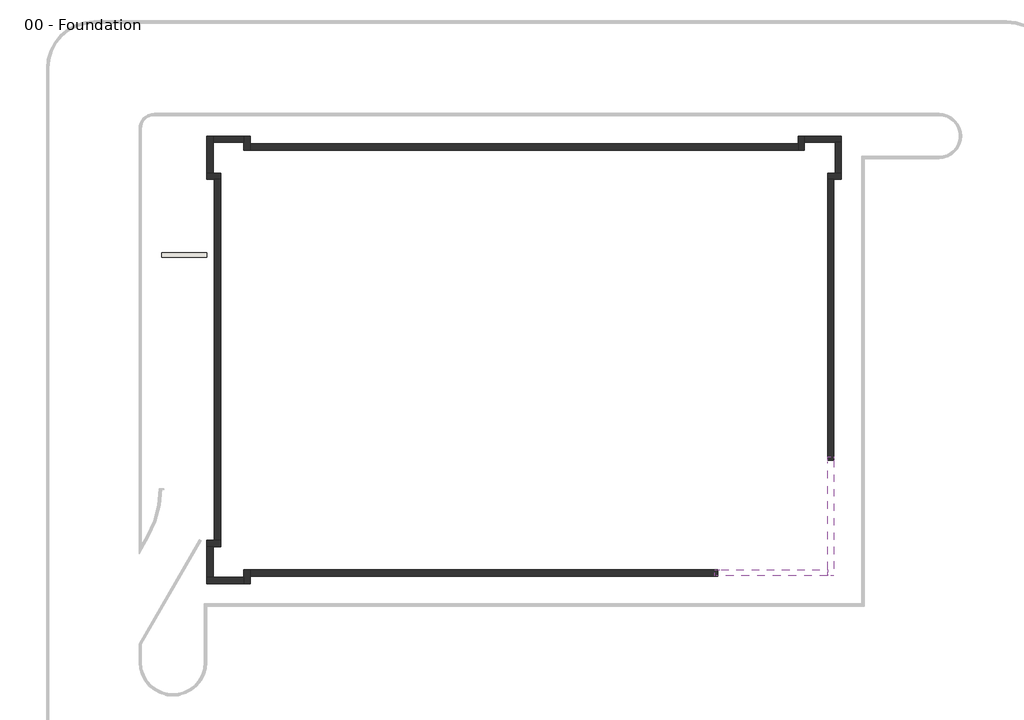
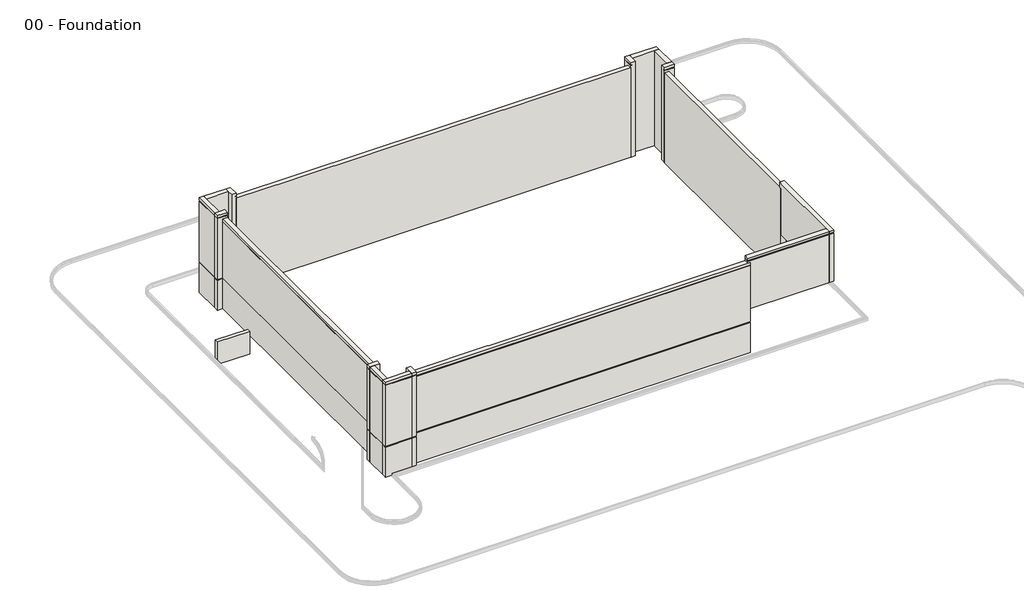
# One storey, part 1 of 2: 19 walls.
"""IFC4 building model written with IfcOpenShell, lengths in millimetres."""

from ifc_helpers import new_model, si_unit, frame, origin, place, context, project, spatial, polyline, outline, extrude, faceted_brep, element, save

model = new_model("IFC4")

# Units and contexts
model_context = context("Model", 3, world=origin())
ifc_project = project(units=[si_unit("LENGTHUNIT", "METRE", prefix="MILLI")], contexts=[model_context])

# Site, building, storey
site = spatial("IfcSite", under=ifc_project)
building = spatial("IfcBuilding", under=site)
storey = spatial("IfcBuildingStorey", under=building, Name="00 - Foundation", Elevation=-1250.0)

# Walls
placement = place(None, origin())
element("IfcWall", 1, ObjectType="Exterior - Render on Brick on Block @ Entry", at=placement, inside=storey, context=model_context, shape_type="Brep", body=[
    faceted_brep([(18351.5272279, -6696.4313057, 3000.0), (18351.5272279, -13977.9313057, 3000.0), (18351.5272279, -14406.9313057, 3000.0), (18351.5272279, -14406.9313057, 7700.0), (18351.5272279, -14331.9313057, 7700.0), (18351.5272279, -14331.9313057, 7775.0), (18351.5272279, -14406.9313057, 7775.0), (18351.5272279, -14406.9313057, 8000.0), (18351.5272279, -13977.9313057, 8000.0), (18351.5272279, -6910.9313057, 8000.0), (18351.5272279, -6481.9313057, 8000.0), (18351.5272279, -6481.9313057, 7775.0), (18351.5272279, -6556.9313057, 7775.0), (18351.5272279, -6556.9313057, 7700.0), (18351.5272279, -6481.9313057, 7700.0), (18351.5272279, -6481.9313057, 7500.0), (18351.5272279, -6696.4313057, 7500.0), (18780.5272279, -14406.9313057, 3000.0), (18780.5272279, -6696.4313057, 3000.0), (18780.5272279, -6696.4313057, 7200.0), (18780.5272279, -6696.4313057, 7275.0), (18780.5272279, -6696.4313057, 7500.0), (18780.5272279, -6481.9313057, 7500.0), (18780.5272279, -6481.9313057, 7700.0), (18780.5272279, -14406.9313057, 7700.0), (18780.5272279, -6481.9313057, 8000.0), (18780.5272279, -14406.9313057, 8000.0), (18780.5272279, -14406.9313057, 7775.0), (18780.5272279, -6481.9313057, 7775.0), (18705.5272279, -6556.9313057, 7700.0), (18705.5272279, -6556.9313057, 7775.0), (18705.5272279, -14331.9313057, 7775.0), (18705.5272279, -14331.9313057, 7700.0)], [[[0, 1, 2, 3, 4, 5, 6, 7, 8, 9, 10, 11, 12, 13, 14, 15, 16]], [[17, 18, 19, 20, 21, 22, 23, 24]], [[25, 26, 27, 28]], [[2, 1, 0, 18, 17]], [[10, 9, 8, 7, 26, 25]], [[29, 30, 31, 32]], [[2, 17, 24, 3]], [[26, 7, 6, 27]], [[31, 30, 12, 11, 28, 27, 6, 5]], [[29, 32, 4, 3, 24, 23, 14, 13]], [[30, 29, 13, 12]], [[32, 31, 5, 4]], [[18, 0, 16, 21, 20, 19]], [[22, 21, 16, 15]], [[10, 25, 28, 11]], [[22, 15, 14, 23]]]),
])
element("IfcWall", 2, ObjectType="Exterior - Render on Brick on Block @ Entry", at=placement, inside=storey, context=model_context, shape_type="Brep", body=[
    faceted_brep([(18351.5272279, -13977.9313057, 3000.0), (11070.0272279, -13977.9313057, 3000.0), (11070.0272279, -13977.9313057, 7500.0), (10855.5272279, -13977.9313057, 7500.0), (10855.5272279, -13977.9313057, 7700.0), (10930.5272279, -13977.9313057, 7700.0), (10930.5272279, -13977.9313057, 7775.0), (10855.5272279, -13977.9313057, 7775.0), (10855.5272279, -13977.9313057, 8000.0), (11284.5272279, -13977.9313057, 8000.0), (18351.5272279, -13977.9313057, 8000.0), (11070.0272279, -14406.9313057, 3000.0), (18351.5272279, -14406.9313057, 3000.0), (18351.5272279, -14406.9313057, 7700.0), (10855.5272279, -14406.9313057, 7700.0), (10855.5272279, -14406.9313057, 7500.0), (11070.0272279, -14406.9313057, 7500.0), (11070.0272279, -14406.9313057, 7275.0), (11070.0272279, -14406.9313057, 7200.0), (18351.5272279, -14406.9313057, 8000.0), (10855.5272279, -14406.9313057, 8000.0), (10855.5272279, -14406.9313057, 7775.0), (18351.5272279, -14406.9313057, 7775.0), (18351.5272279, -14331.9313057, 7700.0), (18351.5272279, -14331.9313057, 7775.0), (10930.5272279, -14331.9313057, 7775.0), (10930.5272279, -14331.9313057, 7700.0)], [[[0, 1, 2, 3, 4, 5, 6, 7, 8, 9, 10]], [[11, 12, 13, 14, 15, 16, 17, 18]], [[19, 20, 21, 22]], [[1, 0, 12, 11]], [[10, 9, 8, 20, 19]], [[23, 24, 25, 26]], [[0, 10, 19, 22, 24, 23, 13, 12]], [[22, 21, 7, 6, 25, 24]], [[14, 13, 23, 26, 5, 4]], [[26, 25, 6, 5]], [[1, 11, 18, 17, 16, 2]], [[3, 2, 16, 15]], [[3, 15, 14, 4]], [[20, 8, 7, 21]]]),
])
element("IfcWall", 3, ObjectType="Exterior - Render on Brick on Block", at=placement, inside=storey, context=model_context, shape_type="Brep", body=[
    faceted_brep([(11070.0272279, -13977.9313057, -1250.0), (-20031.4727721, -13977.9313057, -1250.0), (-20031.4727721, -13977.9313057, 7500.0), (-12988.7227721, -13977.9313057, 7500.0), (-12850.2227721, -13977.9313057, 7500.0), (10855.5272279, -13977.9313057, 7500.0), (11070.0272279, -13977.9313057, 7500.0), (11070.0272279, -13977.9313057, 3000.0), (11070.0272279, -14406.9313057, 7500.0), (-20031.4727721, -14406.9313057, 7500.0), (-20031.4727721, -14406.9313057, 7275.0), (11070.0272279, -14406.9313057, 7275.0), (-20031.4727721, -14406.9313057, -1250.0), (11070.0272279, -14406.9313057, -1250.0), (11070.0272279, -14406.9313057, 1675.0), (-20031.4727721, -14406.9313057, 1675.0), (-20031.4727721, -14406.9313057, 1750.0), (11070.0272279, -14406.9313057, 1750.0), (11070.0272279, -14406.9313057, 7200.0), (-20031.4727721, -14406.9313057, 7200.0), (11070.0272279, -14331.9313057, 7275.0), (11070.0272279, -14331.9313057, 7200.0), (11070.0272279, -14331.9313057, 1750.0), (11070.0272279, -14331.9313057, 1675.0), (11070.0272279, -14381.9313057, -1250.0), (-20031.4727721, -14381.9313057, -1250.0), (-20031.4727721, -14331.9313057, 1750.0), (-20031.4727721, -14331.9313057, 1675.0), (-20031.4727721, -14331.9313057, 7275.0), (-20031.4727721, -14331.9313057, 7200.0)], [[[0, 1, 2, 3, 4, 5, 6, 7]], [[8, 9, 10, 11]], [[12, 13, 14, 15]], [[16, 17, 18, 19]], [[6, 5, 4, 3, 2, 9, 8]], [[0, 7, 6, 8, 11, 20, 21, 18, 17, 22, 23, 14, 13, 24]], [[1, 0, 24, 25]], [[24, 13, 12, 25]], [[17, 16, 26, 22]], [[15, 14, 23, 27]], [[23, 22, 26, 27]], [[28, 20, 11, 10]], [[21, 29, 19, 18]], [[20, 28, 29, 21]], [[2, 1, 25, 12, 15, 27, 26, 16, 19, 29, 28, 10, 9]]]),
])
element("IfcWall", 4, ObjectType="Exterior - Render on Brick on Block", at=placement, inside=storey, context=model_context, shape_type="Brep", body=[
    faceted_brep([(-20460.4727721, -13977.9313057, -1250.0), (-20460.4727721, -14477.7313057, -1250.0), (-20460.4727721, -14906.7313057, -1250.0), (-20460.4727721, -14906.7313057, 1675.0), (-20460.4727721, -14831.7313057, 1675.0), (-20460.4727721, -14831.7313057, 1750.0), (-20460.4727721, -14906.7313057, 1750.0), (-20460.4727721, -14906.7313057, 7700.0), (-20460.4727721, -14831.7313057, 7700.0), (-20460.4727721, -14831.7313057, 7775.0), (-20460.4727721, -14906.7313057, 7775.0), (-20460.4727721, -14906.7313057, 8000.0), (-20460.4727721, -14477.7313057, 8000.0), (-20460.4727721, -13977.9313057, 8000.0), (-20031.4727721, -13977.9313057, 8000.0), (-20031.4727721, -14906.7313057, 8000.0), (-20031.4727721, -14906.7313057, 7775.0), (-20031.4727721, -13977.9313057, 7775.0), (-20031.4727721, -14906.7313057, -1250.0), (-20031.4727721, -14406.9313057, -1250.0), (-20031.4727721, -13977.9313057, -1250.0), (-20031.4727721, -13977.9313057, 7500.0), (-20031.4727721, -13977.9313057, 7700.0), (-20031.4727721, -14906.7313057, 7700.0), (-20031.4727721, -14906.7313057, 1750.0), (-20031.4727721, -14406.9313057, 1750.0), (-20031.4727721, -14331.9313057, 1750.0), (-20031.4727721, -14331.9313057, 1675.0), (-20031.4727721, -14406.9313057, 1675.0), (-20031.4727721, -14906.7313057, 1675.0), (-20056.4727721, -13977.9313057, -1250.0), (-20056.4727721, -14906.7313057, -1250.0), (-20106.4727721, -14331.9313057, 1675.0), (-20106.4727721, -14331.9313057, 1750.0), (-20106.4727721, -14831.7313057, 1750.0), (-20106.4727721, -14831.7313057, 1675.0), (-20106.4727721, -14831.7313057, 7775.0), (-20106.4727721, -13977.9313057, 7775.0), (-20106.4727721, -13977.9313057, 7700.0), (-20106.4727721, -14831.7313057, 7700.0)], [[[0, 1, 2, 3, 4, 5, 6, 7, 8, 9, 10, 11, 12, 13]], [[14, 15, 16, 17]], [[18, 19, 20, 21, 22, 23, 24, 25, 26, 27, 28, 29]], [[13, 12, 11, 15, 14]], [[2, 1, 0, 30, 31]], [[32, 33, 34, 35]], [[36, 37, 17, 16, 10, 9]], [[38, 39, 8, 7, 23, 22]], [[37, 36, 39, 38]], [[0, 13, 14, 17, 37, 38, 22, 21, 20, 30]], [[20, 19, 18, 31, 30]], [[34, 33, 26, 25, 24, 6, 5]], [[32, 35, 4, 3, 29, 28, 27]], [[33, 32, 27, 26]], [[15, 11, 10, 16]], [[2, 31, 18, 29, 3]], [[6, 24, 23, 7]], [[35, 34, 5, 4]], [[39, 36, 9, 8]]]),
])
element("IfcWall", 5, ObjectType="Exterior - Render on Brick on Block", at=placement, inside=storey, context=model_context, shape_type="Brep", body=[
    faceted_brep([(-20460.4727721, -14477.7313057, -1250.0), (-22490.4727721, -14477.7313057, -1250.0), (-22919.4727721, -14477.7313057, -1250.0), (-22919.4727721, -14477.7313057, 1675.0), (-22844.4727721, -14477.7313057, 1675.0), (-22844.4727721, -14477.7313057, 1750.0), (-22919.4727721, -14477.7313057, 1750.0), (-22919.4727721, -14477.7313057, 7700.0), (-22844.4727721, -14477.7313057, 7700.0), (-22844.4727721, -14477.7313057, 7775.0), (-22919.4727721, -14477.7313057, 7775.0), (-22919.4727721, -14477.7313057, 8000.0), (-22490.4727721, -14477.7313057, 8000.0), (-20460.4727721, -14477.7313057, 8000.0), (-20460.4727721, -14906.7313057, 8000.0), (-22919.4727721, -14906.7313057, 8000.0), (-22919.4727721, -14906.7313057, 7775.0), (-20460.4727721, -14906.7313057, 7775.0), (-22919.4727721, -14906.7313057, -1250.0), (-20460.4727721, -14906.7313057, -1250.0), (-20460.4727721, -14906.7313057, 1675.0), (-22919.4727721, -14906.7313057, 1675.0), (-22919.4727721, -14906.7313057, 1750.0), (-20460.4727721, -14906.7313057, 1750.0), (-20460.4727721, -14906.7313057, 7700.0), (-22919.4727721, -14906.7313057, 7700.0), (-20460.4727721, -14881.7313057, -1250.0), (-22919.4727721, -14881.7313057, -1250.0), (-22844.4727721, -14831.7313057, 1675.0), (-20460.4727721, -14831.7313057, 1675.0), (-20460.4727721, -14831.7313057, 1750.0), (-22844.4727721, -14831.7313057, 1750.0), (-22844.4727721, -14831.7313057, 7775.0), (-22844.4727721, -14831.7313057, 7700.0), (-20460.4727721, -14831.7313057, 7700.0), (-20460.4727721, -14831.7313057, 7775.0)], [[[0, 1, 2, 3, 4, 5, 6, 7, 8, 9, 10, 11, 12, 13]], [[14, 15, 16, 17]], [[18, 19, 20, 21]], [[22, 23, 24, 25]], [[13, 12, 11, 15, 14]], [[2, 1, 0, 26, 27]], [[28, 29, 30, 31]], [[32, 33, 34, 35]], [[0, 13, 14, 17, 35, 34, 24, 23, 30, 29, 20, 19, 26]], [[19, 18, 27, 26]], [[31, 30, 23, 22, 6, 5]], [[29, 28, 4, 3, 21, 20]], [[9, 32, 35, 17, 16, 10]], [[34, 33, 8, 7, 25, 24]], [[15, 11, 10, 16]], [[2, 27, 18, 21, 3]], [[6, 22, 25, 7]], [[28, 31, 5, 4]], [[33, 32, 9, 8]]]),
])
element("IfcWall", 6, ObjectType="Exterior - Render on Brick on Block", at=placement, inside=storey, context=model_context, shape_type="SweptSolid", body=[
    extrude(outline(polyline([(-1250.0, -22490.4727721), (8000.0, -22490.4727721), (8000.0, -22919.4727721), (7775.0, -22919.4727721), (7775.0, -22844.4727721), (7700.0, -22844.4727721), (7700.0, -22919.4727721), (1750.0, -22919.4727721), (1750.0, -22844.4727721), (1675.0, -22844.4727721), (1675.0, -22919.4727721), (-1250.0, -22919.4727721), (-1250.0, -22894.4727721), (-1250.0, -22490.4727721)])), frame((0.0, -14477.7313057, 0.0), z_axis=(0.0, 1.0, 0.0), x_axis=(0.0, 0.0, 1.0)), (0.0, 0.0, 1.0), 2030.0),
])
element("IfcWall", 7, ObjectType="Exterior - Render on Brick on Block", at=placement, inside=storey, context=model_context, shape_type="Brep", body=[
    faceted_brep([(-22919.4727721, -12447.7313057, -1250.0), (-22490.4727721, -12447.7313057, -1250.0), (-21990.4727721, -12447.7313057, -1250.0), (-21990.4727721, -12447.7313057, 8000.0), (-22490.4727721, -12447.7313057, 8000.0), (-22919.4727721, -12447.7313057, 8000.0), (-22919.4727721, -12447.7313057, 7775.0), (-22844.4727721, -12447.7313057, 7775.0), (-22844.4727721, -12447.7313057, 7700.0), (-22919.4727721, -12447.7313057, 7700.0), (-22919.4727721, -12447.7313057, 1750.0), (-22844.4727721, -12447.7313057, 1750.0), (-22844.4727721, -12447.7313057, 1675.0), (-22919.4727721, -12447.7313057, 1675.0), (-22919.4727721, -12018.7313057, 8000.0), (-21990.4727721, -12018.7313057, 8000.0), (-21990.4727721, -12018.7313057, 7775.0), (-22919.4727721, -12018.7313057, 7775.0), (-21990.4727721, -12018.7313057, -1250.0), (-22419.4727721, -12018.7313057, -1250.0), (-22919.4727721, -12018.7313057, -1250.0), (-22919.4727721, -12018.7313057, 1675.0), (-22419.4727721, -12018.7313057, 1675.0), (-22344.4727721, -12018.7313057, 1675.0), (-22344.4727721, -12018.7313057, 1750.0), (-22419.4727721, -12018.7313057, 1750.0), (-22919.4727721, -12018.7313057, 1750.0), (-22919.4727721, -12018.7313057, 7700.0), (-21990.4727721, -12018.7313057, 7700.0), (-21990.4727721, -12018.7313057, 7500.0), (-22919.4727721, -12043.7313057, -1250.0), (-21990.4727721, -12043.7313057, -1250.0), (-22844.4727721, -12093.7313057, 1675.0), (-22844.4727721, -12093.7313057, 1750.0), (-22344.4727721, -12093.7313057, 1750.0), (-22344.4727721, -12093.7313057, 1675.0), (-22844.4727721, -12093.7313057, 7775.0), (-21990.4727721, -12093.7313057, 7775.0), (-21990.4727721, -12093.7313057, 7700.0), (-22844.4727721, -12093.7313057, 7700.0)], [[[0, 1, 2, 3, 4, 5, 6, 7, 8, 9, 10, 11, 12, 13]], [[14, 15, 16, 17]], [[18, 19, 20, 21, 22, 23, 24, 25, 26, 27, 28, 29]], [[5, 4, 3, 15, 14]], [[2, 1, 0, 30, 31]], [[32, 33, 34, 35]], [[36, 37, 38, 39]], [[5, 14, 17, 6]], [[30, 0, 13, 21, 20]], [[26, 10, 9, 27]], [[20, 19, 18, 31, 30]], [[34, 33, 11, 10, 26, 25, 24]], [[32, 35, 23, 22, 21, 13, 12]], [[33, 32, 12, 11]], [[37, 36, 7, 6, 17, 16]], [[39, 38, 28, 27, 9, 8]], [[36, 39, 8, 7]], [[3, 2, 31, 18, 29, 28, 38, 37, 16, 15]], [[35, 34, 24, 23]]]),
])
element("IfcWall", 8, ObjectType="Exterior - Render on Brick on Block", at=placement, inside=storey, context=model_context, shape_type="Brep", body=[
    faceted_brep([(-21990.4727721, -12018.7313057, -1250.0), (-21990.4727721, 11955.0686943, -1250.0), (-21990.4727721, 11955.0686943, 7500.0), (-21990.4727721, -3637.6813057, 7500.0), (-21990.4727721, -3776.1813057, 7500.0), (-21990.4727721, -9826.1813057, 7500.0), (-21990.4727721, -9964.6813057, 7500.0), (-21990.4727721, -12018.7313057, 7500.0), (-22419.4727721, -12018.7313057, 7500.0), (-22419.4727721, 11955.0686943, 7500.0), (-22419.4727721, 11955.0686943, 7275.0), (-22419.4727721, -12018.7313057, 7275.0), (-22419.4727721, 11955.0686943, -1250.0), (-22419.4727721, -12018.7313057, -1250.0), (-22419.4727721, -12018.7313057, 1675.0), (-22419.4727721, 11955.0686943, 1675.0), (-22419.4727721, 11955.0686943, 1750.0), (-22419.4727721, -12018.7313057, 1750.0), (-22419.4727721, -12018.7313057, 7200.0), (-22419.4727721, 11955.0686943, 7200.0), (-22394.4727721, -12018.7313057, -1250.0), (-22394.4727721, 11955.0686943, -1250.0), (-22344.4727721, -12018.7313057, 1675.0), (-22344.4727721, -12018.7313057, 1750.0), (-22344.4727721, 11955.0686943, 1750.0), (-22344.4727721, 11955.0686943, 1675.0), (-22344.4727721, 11955.0686943, 7275.0), (-22344.4727721, -12018.7313057, 7275.0), (-22344.4727721, -12018.7313057, 7200.0), (-22344.4727721, 11955.0686943, 7200.0)], [[[0, 1, 2, 3, 4, 5, 6, 7]], [[8, 9, 10, 11]], [[12, 13, 14, 15]], [[16, 17, 18, 19]], [[7, 6, 5, 4, 3, 2, 9, 8]], [[1, 0, 20, 21]], [[22, 23, 24, 25]], [[26, 27, 11, 10]], [[28, 29, 19, 18]], [[27, 26, 29, 28]], [[0, 7, 8, 11, 27, 28, 18, 17, 23, 22, 14, 13, 20]], [[13, 12, 21, 20]], [[17, 16, 24, 23]], [[15, 14, 22, 25]], [[2, 1, 21, 12, 15, 25, 24, 16, 19, 29, 26, 10, 9]]]),
])
element("IfcWall", 9, ObjectType="Exterior - Render on Brick on Block", at=placement, inside=storey, context=model_context, shape_type="Brep", body=[
    faceted_brep([(-21990.4727721, 12384.0686943, -1250.0), (-22490.4727721, 12384.0686943, -1250.0), (-22919.4727721, 12384.0686943, -1250.0), (-22919.4727721, 12384.0686943, 1675.0), (-22844.4727721, 12384.0686943, 1675.0), (-22844.4727721, 12384.0686943, 1750.0), (-22919.4727721, 12384.0686943, 1750.0), (-22919.4727721, 12384.0686943, 7700.0), (-22844.4727721, 12384.0686943, 7700.0), (-22844.4727721, 12384.0686943, 7775.0), (-22919.4727721, 12384.0686943, 7775.0), (-22919.4727721, 12384.0686943, 8000.0), (-22490.4727721, 12384.0686943, 8000.0), (-21990.4727721, 12384.0686943, 8000.0), (-21990.4727721, 11955.0686943, 8000.0), (-22919.4727721, 11955.0686943, 8000.0), (-22919.4727721, 11955.0686943, 7775.0), (-21990.4727721, 11955.0686943, 7775.0), (-22919.4727721, 11955.0686943, -1250.0), (-22419.4727721, 11955.0686943, -1250.0), (-21990.4727721, 11955.0686943, -1250.0), (-21990.4727721, 11955.0686943, 7500.0), (-21990.4727721, 11955.0686943, 7700.0), (-22919.4727721, 11955.0686943, 7700.0), (-22919.4727721, 11955.0686943, 1750.0), (-22419.4727721, 11955.0686943, 1750.0), (-22344.4727721, 11955.0686943, 1750.0), (-22344.4727721, 11955.0686943, 1675.0), (-22419.4727721, 11955.0686943, 1675.0), (-22919.4727721, 11955.0686943, 1675.0), (-21990.4727721, 11980.0686943, -1250.0), (-22919.4727721, 11980.0686943, -1250.0), (-22344.4727721, 12030.0686943, 1675.0), (-22344.4727721, 12030.0686943, 1750.0), (-22844.4727721, 12030.0686943, 1750.0), (-22844.4727721, 12030.0686943, 1675.0), (-22844.4727721, 12030.0686943, 7775.0), (-21990.4727721, 12030.0686943, 7775.0), (-21990.4727721, 12030.0686943, 7700.0), (-22844.4727721, 12030.0686943, 7700.0)], [[[0, 1, 2, 3, 4, 5, 6, 7, 8, 9, 10, 11, 12, 13]], [[14, 15, 16, 17]], [[18, 19, 20, 21, 22, 23, 24, 25, 26, 27, 28, 29]], [[13, 12, 11, 15, 14]], [[2, 1, 0, 30, 31]], [[32, 33, 34, 35]], [[36, 37, 17, 16, 10, 9]], [[38, 39, 8, 7, 23, 22]], [[37, 36, 39, 38]], [[0, 13, 14, 17, 37, 38, 22, 21, 20, 30]], [[20, 19, 18, 31, 30]], [[34, 33, 26, 25, 24, 6, 5]], [[32, 35, 4, 3, 29, 28, 27]], [[33, 32, 27, 26]], [[15, 11, 10, 16]], [[2, 31, 18, 29, 3]], [[6, 24, 23, 7]], [[35, 34, 5, 4]], [[39, 36, 9, 8]]]),
])
element("IfcWall", 10, ObjectType="Exterior - Render on Brick on Block", at=placement, inside=storey, context=model_context, shape_type="Brep", body=[
    faceted_brep([(-22490.4727721, 12384.0686943, -1250.0), (-22490.4727721, 14414.0686943, -1250.0), (-22490.4727721, 14843.0686943, -1250.0), (-22490.4727721, 14843.0686943, 1675.0), (-22490.4727721, 14768.0686943, 1675.0), (-22490.4727721, 14768.0686943, 1750.0), (-22490.4727721, 14843.0686943, 1750.0), (-22490.4727721, 14843.0686943, 7700.0), (-22490.4727721, 14768.0686943, 7700.0), (-22490.4727721, 14768.0686943, 7775.0), (-22490.4727721, 14843.0686943, 7775.0), (-22490.4727721, 14843.0686943, 8000.0), (-22490.4727721, 14414.0686943, 8000.0), (-22490.4727721, 12384.0686943, 8000.0), (-22919.4727721, 12384.0686943, 8000.0), (-22919.4727721, 14843.0686943, 8000.0), (-22919.4727721, 14843.0686943, 7775.0), (-22919.4727721, 12384.0686943, 7775.0), (-22919.4727721, 14843.0686943, -1250.0), (-22919.4727721, 12384.0686943, -1250.0), (-22919.4727721, 12384.0686943, 1675.0), (-22919.4727721, 14843.0686943, 1675.0), (-22919.4727721, 14843.0686943, 1750.0), (-22919.4727721, 12384.0686943, 1750.0), (-22919.4727721, 12384.0686943, 7700.0), (-22919.4727721, 14843.0686943, 7700.0), (-22894.4727721, 12384.0686943, -1250.0), (-22894.4727721, 14843.0686943, -1250.0), (-22844.4727721, 14768.0686943, 1675.0), (-22844.4727721, 12384.0686943, 1675.0), (-22844.4727721, 12384.0686943, 1750.0), (-22844.4727721, 14768.0686943, 1750.0), (-22844.4727721, 14768.0686943, 7775.0), (-22844.4727721, 14768.0686943, 7700.0), (-22844.4727721, 12384.0686943, 7700.0), (-22844.4727721, 12384.0686943, 7775.0)], [[[0, 1, 2, 3, 4, 5, 6, 7, 8, 9, 10, 11, 12, 13]], [[14, 15, 16, 17]], [[18, 19, 20, 21]], [[22, 23, 24, 25]], [[13, 12, 11, 15, 14]], [[2, 1, 0, 26, 27]], [[28, 29, 30, 31]], [[32, 33, 34, 35]], [[0, 13, 14, 17, 35, 34, 24, 23, 30, 29, 20, 19, 26]], [[19, 18, 27, 26]], [[31, 30, 23, 22, 6, 5]], [[29, 28, 4, 3, 21, 20]], [[9, 32, 35, 17, 16, 10]], [[34, 33, 8, 7, 25, 24]], [[15, 11, 10, 16]], [[2, 27, 18, 21, 3]], [[6, 22, 25, 7]], [[28, 31, 5, 4]], [[33, 32, 9, 8]]]),
])
element("IfcWall", 11, ObjectType="Exterior - Render on Brick on Block", at=placement, inside=storey, context=model_context, shape_type="SweptSolid", body=[
    extrude(outline(polyline([(14414.0686943, -1250.0), (14414.0686943, 8000.0), (14843.0686943, 8000.0), (14843.0686943, 7775.0), (14768.0686943, 7775.0), (14768.0686943, 7700.0), (14843.0686943, 7700.0), (14843.0686943, 1750.0), (14768.0686943, 1750.0), (14768.0686943, 1675.0), (14843.0686943, 1675.0), (14843.0686943, -1250.0), (14818.0686943, -1250.0), (14414.0686943, -1250.0)])), frame((-22490.4727721, 0.0, 0.0), z_axis=(1.0, 0.0, 0.0), x_axis=(0.0, 1.0, 0.0)), (0.0, 0.0, 1.0), 2030.0),
])
element("IfcWall", 12, ObjectType="Exterior - Render on Brick on Block", at=placement, inside=storey, context=model_context, shape_type="Brep", body=[
    faceted_brep([(-20460.4727721, 14843.0686943, -1250.0), (-20460.4727721, 14414.0686943, -1250.0), (-20460.4727721, 13914.0686943, -1250.0), (-20460.4727721, 13914.0686943, 8000.0), (-20460.4727721, 14414.0686943, 8000.0), (-20460.4727721, 14843.0686943, 8000.0), (-20460.4727721, 14843.0686943, 7775.0), (-20460.4727721, 14768.0686943, 7775.0), (-20460.4727721, 14768.0686943, 7700.0), (-20460.4727721, 14843.0686943, 7700.0), (-20460.4727721, 14843.0686943, 1750.0), (-20460.4727721, 14768.0686943, 1750.0), (-20460.4727721, 14768.0686943, 1675.0), (-20460.4727721, 14843.0686943, 1675.0), (-20031.4727721, 14843.0686943, 8000.0), (-20031.4727721, 13914.0686943, 8000.0), (-20031.4727721, 13914.0686943, 7775.0), (-20031.4727721, 14843.0686943, 7775.0), (-20031.4727721, 13914.0686943, -1250.0), (-20031.4727721, 14343.0686943, -1250.0), (-20031.4727721, 14843.0686943, -1250.0), (-20031.4727721, 14843.0686943, 1675.0), (-20031.4727721, 14343.0686943, 1675.0), (-20031.4727721, 14268.0686943, 1675.0), (-20031.4727721, 14268.0686943, 1750.0), (-20031.4727721, 14343.0686943, 1750.0), (-20031.4727721, 14843.0686943, 1750.0), (-20031.4727721, 14843.0686943, 7700.0), (-20031.4727721, 13914.0686943, 7700.0), (-20031.4727721, 13914.0686943, 7500.0), (-20056.4727721, 14843.0686943, -1250.0), (-20056.4727721, 13914.0686943, -1250.0), (-20106.4727721, 14768.0686943, 1675.0), (-20106.4727721, 14768.0686943, 1750.0), (-20106.4727721, 14268.0686943, 1750.0), (-20106.4727721, 14268.0686943, 1675.0), (-20106.4727721, 14768.0686943, 7775.0), (-20106.4727721, 13914.0686943, 7775.0), (-20106.4727721, 13914.0686943, 7700.0), (-20106.4727721, 14768.0686943, 7700.0)], [[[0, 1, 2, 3, 4, 5, 6, 7, 8, 9, 10, 11, 12, 13]], [[14, 15, 16, 17]], [[18, 19, 20, 21, 22, 23, 24, 25, 26, 27, 28, 29]], [[5, 4, 3, 15, 14]], [[2, 1, 0, 30, 31]], [[32, 33, 34, 35]], [[36, 37, 38, 39]], [[5, 14, 17, 6]], [[30, 0, 13, 21, 20]], [[26, 10, 9, 27]], [[20, 19, 18, 31, 30]], [[34, 33, 11, 10, 26, 25, 24]], [[32, 35, 23, 22, 21, 13, 12]], [[33, 32, 12, 11]], [[37, 36, 7, 6, 17, 16]], [[39, 38, 28, 27, 9, 8]], [[36, 39, 8, 7]], [[3, 2, 31, 18, 29, 28, 38, 37, 16, 15]], [[35, 34, 24, 23]]]),
])
element("IfcWall", 13, ObjectType="Exterior - Render on Brick on Block", at=placement, inside=storey, context=model_context, shape_type="Brep", body=[
    faceted_brep([(-20031.4727721, 13914.0686943, -1250.0), (16392.5272279, 13914.0686943, -1250.0), (16392.5272279, 13914.0686943, 7500.0), (-14950.2227721, 13914.0686943, 7500.0), (-15088.7227721, 13914.0686943, 7500.0), (-20031.4727721, 13914.0686943, 7500.0), (-20031.4727721, 14343.0686943, 7500.0), (16392.5272279, 14343.0686943, 7500.0), (16392.5272279, 14343.0686943, 7275.0), (-20031.4727721, 14343.0686943, 7275.0), (16392.5272279, 14343.0686943, -1250.0), (-20031.4727721, 14343.0686943, -1250.0), (-20031.4727721, 14343.0686943, 1675.0), (16392.5272279, 14343.0686943, 1675.0), (16392.5272279, 14343.0686943, 1750.0), (-20031.4727721, 14343.0686943, 1750.0), (-20031.4727721, 14343.0686943, 7200.0), (16392.5272279, 14343.0686943, 7200.0), (-20031.4727721, 14318.0686943, -1250.0), (16392.5272279, 14318.0686943, -1250.0), (-20031.4727721, 14268.0686943, 1675.0), (-20031.4727721, 14268.0686943, 1750.0), (16392.5272279, 14268.0686943, 1750.0), (16392.5272279, 14268.0686943, 1675.0), (16392.5272279, 14268.0686943, 7275.0), (-20031.4727721, 14268.0686943, 7275.0), (-20031.4727721, 14268.0686943, 7200.0), (16392.5272279, 14268.0686943, 7200.0)], [[[0, 1, 2, 3, 4, 5]], [[6, 7, 8, 9]], [[10, 11, 12, 13]], [[14, 15, 16, 17]], [[5, 4, 3, 2, 7, 6]], [[1, 0, 18, 19]], [[20, 21, 22, 23]], [[24, 25, 9, 8]], [[26, 27, 17, 16]], [[25, 24, 27, 26]], [[0, 5, 6, 9, 25, 26, 16, 15, 21, 20, 12, 11, 18]], [[11, 10, 19, 18]], [[15, 14, 22, 21]], [[13, 12, 20, 23]], [[2, 1, 19, 10, 13, 23, 22, 14, 17, 27, 24, 8, 7]]]),
])
element("IfcWall", 14, ObjectType="Exterior - Render on Brick on Block", at=placement, inside=storey, context=model_context, shape_type="Brep", body=[
    faceted_brep([(16821.5272279, 13914.0686943, -1250.0), (16821.5272279, 14414.0686943, -1250.0), (16821.5272279, 14843.0686943, -1250.0), (16821.5272279, 14843.0686943, 1675.0), (16821.5272279, 14768.0686943, 1675.0), (16821.5272279, 14768.0686943, 1750.0), (16821.5272279, 14843.0686943, 1750.0), (16821.5272279, 14843.0686943, 7700.0), (16821.5272279, 14768.0686943, 7700.0), (16821.5272279, 14768.0686943, 7775.0), (16821.5272279, 14843.0686943, 7775.0), (16821.5272279, 14843.0686943, 8000.0), (16821.5272279, 14414.0686943, 8000.0), (16821.5272279, 13914.0686943, 8000.0), (16392.5272279, 13914.0686943, 8000.0), (16392.5272279, 14843.0686943, 8000.0), (16392.5272279, 14843.0686943, 7775.0), (16392.5272279, 13914.0686943, 7775.0), (16392.5272279, 14843.0686943, -1250.0), (16392.5272279, 14343.0686943, -1250.0), (16392.5272279, 13914.0686943, -1250.0), (16392.5272279, 13914.0686943, 7500.0), (16392.5272279, 13914.0686943, 7700.0), (16392.5272279, 14843.0686943, 7700.0), (16392.5272279, 14843.0686943, 1750.0), (16392.5272279, 14343.0686943, 1750.0), (16392.5272279, 14268.0686943, 1750.0), (16392.5272279, 14268.0686943, 1675.0), (16392.5272279, 14343.0686943, 1675.0), (16392.5272279, 14843.0686943, 1675.0), (16417.5272279, 13914.0686943, -1250.0), (16417.5272279, 14843.0686943, -1250.0), (16467.5272279, 14268.0686943, 1675.0), (16467.5272279, 14268.0686943, 1750.0), (16467.5272279, 14768.0686943, 1750.0), (16467.5272279, 14768.0686943, 1675.0), (16467.5272279, 14768.0686943, 7775.0), (16467.5272279, 13914.0686943, 7775.0), (16467.5272279, 13914.0686943, 7700.0), (16467.5272279, 14768.0686943, 7700.0)], [[[0, 1, 2, 3, 4, 5, 6, 7, 8, 9, 10, 11, 12, 13]], [[14, 15, 16, 17]], [[18, 19, 20, 21, 22, 23, 24, 25, 26, 27, 28, 29]], [[13, 12, 11, 15, 14]], [[2, 1, 0, 30, 31]], [[32, 33, 34, 35]], [[36, 37, 17, 16, 10, 9]], [[38, 39, 8, 7, 23, 22]], [[37, 36, 39, 38]], [[0, 13, 14, 17, 37, 38, 22, 21, 20, 30]], [[20, 19, 18, 31, 30]], [[34, 33, 26, 25, 24, 6, 5]], [[32, 35, 4, 3, 29, 28, 27]], [[33, 32, 27, 26]], [[15, 11, 10, 16]], [[2, 31, 18, 29, 3]], [[6, 24, 23, 7]], [[35, 34, 5, 4]], [[39, 36, 9, 8]]]),
])
element("IfcWall", 15, ObjectType="Exterior - Render on Brick on Block", at=placement, inside=storey, context=model_context, shape_type="Brep", body=[
    faceted_brep([(16821.5272279, 14414.0686943, -1250.0), (18851.5272279, 14414.0686943, -1250.0), (19280.5272279, 14414.0686943, -1250.0), (19280.5272279, 14414.0686943, 1675.0), (19205.5272279, 14414.0686943, 1675.0), (19205.5272279, 14414.0686943, 1750.0), (19280.5272279, 14414.0686943, 1750.0), (19280.5272279, 14414.0686943, 7700.0), (19205.5272279, 14414.0686943, 7700.0), (19205.5272279, 14414.0686943, 7775.0), (19280.5272279, 14414.0686943, 7775.0), (19280.5272279, 14414.0686943, 8000.0), (18851.5272279, 14414.0686943, 8000.0), (16821.5272279, 14414.0686943, 8000.0), (16821.5272279, 14843.0686943, 8000.0), (19280.5272279, 14843.0686943, 8000.0), (19280.5272279, 14843.0686943, 7775.0), (16821.5272279, 14843.0686943, 7775.0), (19280.5272279, 14843.0686943, -1250.0), (16821.5272279, 14843.0686943, -1250.0), (16821.5272279, 14843.0686943, 1675.0), (19280.5272279, 14843.0686943, 1675.0), (19280.5272279, 14843.0686943, 1750.0), (16821.5272279, 14843.0686943, 1750.0), (16821.5272279, 14843.0686943, 7700.0), (19280.5272279, 14843.0686943, 7700.0), (16821.5272279, 14818.0686943, -1250.0), (19280.5272279, 14818.0686943, -1250.0), (19205.5272279, 14768.0686943, 1675.0), (16821.5272279, 14768.0686943, 1675.0), (16821.5272279, 14768.0686943, 1750.0), (19205.5272279, 14768.0686943, 1750.0), (19205.5272279, 14768.0686943, 7775.0), (19205.5272279, 14768.0686943, 7700.0), (16821.5272279, 14768.0686943, 7700.0), (16821.5272279, 14768.0686943, 7775.0)], [[[0, 1, 2, 3, 4, 5, 6, 7, 8, 9, 10, 11, 12, 13]], [[14, 15, 16, 17]], [[18, 19, 20, 21]], [[22, 23, 24, 25]], [[13, 12, 11, 15, 14]], [[2, 1, 0, 26, 27]], [[28, 29, 30, 31]], [[32, 33, 34, 35]], [[0, 13, 14, 17, 35, 34, 24, 23, 30, 29, 20, 19, 26]], [[19, 18, 27, 26]], [[31, 30, 23, 22, 6, 5]], [[29, 28, 4, 3, 21, 20]], [[9, 32, 35, 17, 16, 10]], [[34, 33, 8, 7, 25, 24]], [[15, 11, 10, 16]], [[2, 27, 18, 21, 3]], [[6, 22, 25, 7]], [[28, 31, 5, 4]], [[33, 32, 9, 8]]]),
])
element("IfcWall", 16, ObjectType="Exterior - Render on Brick on Block", at=placement, inside=storey, context=model_context, shape_type="SweptSolid", body=[
    extrude(outline(polyline([(8000.0, 18851.5272279), (-1250.0, 18851.5272279), (-1250.0, 19255.5272279), (-1250.0, 19280.5272279), (1675.0, 19280.5272279), (1675.0, 19205.5272279), (1750.0, 19205.5272279), (1750.0, 19280.5272279), (7700.0, 19280.5272279), (7700.0, 19205.5272279), (7775.0, 19205.5272279), (7775.0, 19280.5272279), (8000.0, 19280.5272279), (8000.0, 18851.5272279)])), frame((0.0, 12384.0686943, 0.0), z_axis=(0.0, 1.0, 0.0), x_axis=(0.0, 0.0, 1.0)), (0.0, 0.0, 1.0), 2030.0),
])
element("IfcWall", 17, ObjectType="Exterior - Render on Brick on Block", at=placement, inside=storey, context=model_context, shape_type="Brep", body=[
    faceted_brep([(19280.5272279, 12384.0686943, -1250.0), (18851.5272279, 12384.0686943, -1250.0), (18351.5272279, 12384.0686943, -1250.0), (18351.5272279, 12384.0686943, 8000.0), (18851.5272279, 12384.0686943, 8000.0), (19280.5272279, 12384.0686943, 8000.0), (19280.5272279, 12384.0686943, 7775.0), (19205.5272279, 12384.0686943, 7775.0), (19205.5272279, 12384.0686943, 7700.0), (19280.5272279, 12384.0686943, 7700.0), (19280.5272279, 12384.0686943, 1750.0), (19205.5272279, 12384.0686943, 1750.0), (19205.5272279, 12384.0686943, 1675.0), (19280.5272279, 12384.0686943, 1675.0), (19280.5272279, 11955.0686943, 8000.0), (18351.5272279, 11955.0686943, 8000.0), (18351.5272279, 11955.0686943, 7775.0), (19280.5272279, 11955.0686943, 7775.0), (18351.5272279, 11955.0686943, -1250.0), (18780.5272279, 11955.0686943, -1250.0), (19280.5272279, 11955.0686943, -1250.0), (19280.5272279, 11955.0686943, 1675.0), (18780.5272279, 11955.0686943, 1675.0), (18705.5272279, 11955.0686943, 1675.0), (18705.5272279, 11955.0686943, 1750.0), (18780.5272279, 11955.0686943, 1750.0), (19280.5272279, 11955.0686943, 1750.0), (19280.5272279, 11955.0686943, 7700.0), (18351.5272279, 11955.0686943, 7700.0), (18351.5272279, 11955.0686943, 7500.0), (19280.5272279, 11980.0686943, -1250.0), (18351.5272279, 11980.0686943, -1250.0), (19205.5272279, 12030.0686943, 1675.0), (19205.5272279, 12030.0686943, 1750.0), (18705.5272279, 12030.0686943, 1750.0), (18705.5272279, 12030.0686943, 1675.0), (19205.5272279, 12030.0686943, 7775.0), (18351.5272279, 12030.0686943, 7775.0), (18351.5272279, 12030.0686943, 7700.0), (19205.5272279, 12030.0686943, 7700.0)], [[[0, 1, 2, 3, 4, 5, 6, 7, 8, 9, 10, 11, 12, 13]], [[14, 15, 16, 17]], [[18, 19, 20, 21, 22, 23, 24, 25, 26, 27, 28, 29]], [[5, 4, 3, 15, 14]], [[2, 1, 0, 30, 31]], [[32, 33, 34, 35]], [[36, 37, 38, 39]], [[5, 14, 17, 6]], [[30, 0, 13, 21, 20]], [[26, 10, 9, 27]], [[20, 19, 18, 31, 30]], [[34, 33, 11, 10, 26, 25, 24]], [[32, 35, 23, 22, 21, 13, 12]], [[33, 32, 12, 11]], [[37, 36, 7, 6, 17, 16]], [[39, 38, 28, 27, 9, 8]], [[36, 39, 8, 7]], [[3, 2, 31, 18, 29, 28, 38, 37, 16, 15]], [[35, 34, 24, 23]]]),
])
element("IfcWall", 18, ObjectType="Exterior - Render on Brick on Block", at=placement, inside=storey, context=model_context, shape_type="Brep", body=[
    faceted_brep([(18351.5272279, 11955.0686943, -1250.0), (18351.5272279, -6696.4313057, -1250.0), (18351.5272279, -6696.4313057, 3000.0), (18351.5272279, -6696.4313057, 7500.0), (18351.5272279, -6481.9313057, 7500.0), (18351.5272279, 11955.0686943, 7500.0), (18780.5272279, 11955.0686943, 7500.0), (18780.5272279, -6696.4313057, 7500.0), (18780.5272279, -6696.4313057, 7275.0), (18780.5272279, 11955.0686943, 7275.0), (18780.5272279, -6696.4313057, -1250.0), (18780.5272279, 11955.0686943, -1250.0), (18780.5272279, 11955.0686943, 1675.0), (18780.5272279, -6696.4313057, 1675.0), (18780.5272279, -6696.4313057, 1750.0), (18780.5272279, 11955.0686943, 1750.0), (18780.5272279, 11955.0686943, 7200.0), (18780.5272279, -6696.4313057, 7200.0), (18755.5272279, -6696.4313057, -1250.0), (18705.5272279, -6696.4313057, 1675.0), (18705.5272279, -6696.4313057, 1750.0), (18705.5272279, -6696.4313057, 7200.0), (18705.5272279, -6696.4313057, 7275.0), (18755.5272279, 11955.0686943, -1250.0), (18705.5272279, 11955.0686943, 1675.0), (18705.5272279, 11955.0686943, 1750.0), (18705.5272279, 11955.0686943, 7275.0), (18705.5272279, 11955.0686943, 7200.0)], [[[0, 1, 2, 3, 4, 5]], [[6, 7, 8, 9]], [[10, 11, 12, 13]], [[14, 15, 16, 17]], [[3, 2, 1, 18, 10, 13, 19, 20, 14, 17, 21, 22, 8, 7]], [[5, 4, 3, 7, 6]], [[1, 0, 23, 18]], [[20, 19, 24, 25]], [[22, 26, 9, 8]], [[27, 21, 17, 16]], [[26, 22, 21, 27]], [[0, 5, 6, 9, 26, 27, 16, 15, 25, 24, 12, 11, 23]], [[11, 10, 18, 23]], [[20, 25, 15, 14]], [[24, 19, 13, 12]]]),
])
element("IfcWall", 19, ObjectType="Foundation - 300mm Concrete", at=placement, inside=storey, context=model_context, shape_type="SweptSolid", body=[
    extrude(outline(polyline([(-25919.4727721, 7072.0686943), (-22919.4727721, 7072.0686943), (-22919.4727721, 6772.0686943), (-25919.4727721, 6772.0686943), (-25919.4727721, 7072.0686943)])), frame((0.0, 0.0, -2350.0), z_axis=(0.0, 0.0, 1.0), x_axis=(1.0, 0.0, 0.0)), (0.0, 0.0, 1.0), 2200.0),
])

save(model, "model.ifc")
